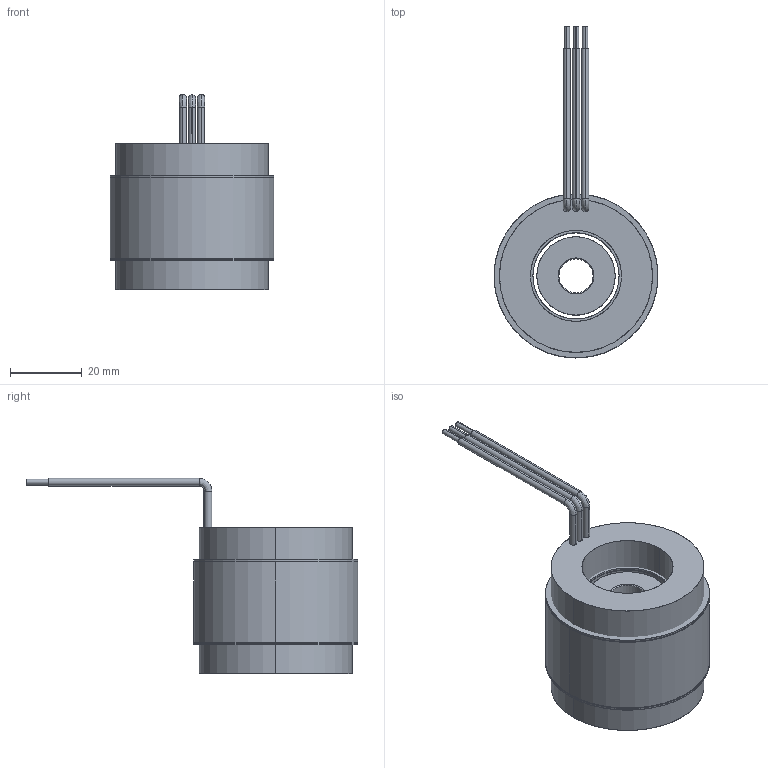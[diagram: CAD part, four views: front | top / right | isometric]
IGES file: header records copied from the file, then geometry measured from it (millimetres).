
Start section: SolidWorks IGES file using analytic representation for surfaces
Global section: file name: \\fs01.aveox.local\user documents\eng\My Documents\STANDARD STATOR ROTOR SETS\Standard rotor and stator set released\1.8 inch stator diameter\6100251-02.IGS; native system: SolidWorks 2016; preprocessor: SolidWorks 2016; author: eng; date: 191111.084636; units: millimetre
Bounding box: 45.72 x 92.54 x 54.48 mm (x, y, z)
Surface area: 31694.6 mm2 (no closed solid volume)
Topology: 0 solids, 0 shells, 76 faces, 1792 edges, 1792 vertices
Faces by surface type: revolution 50, bspline 26
